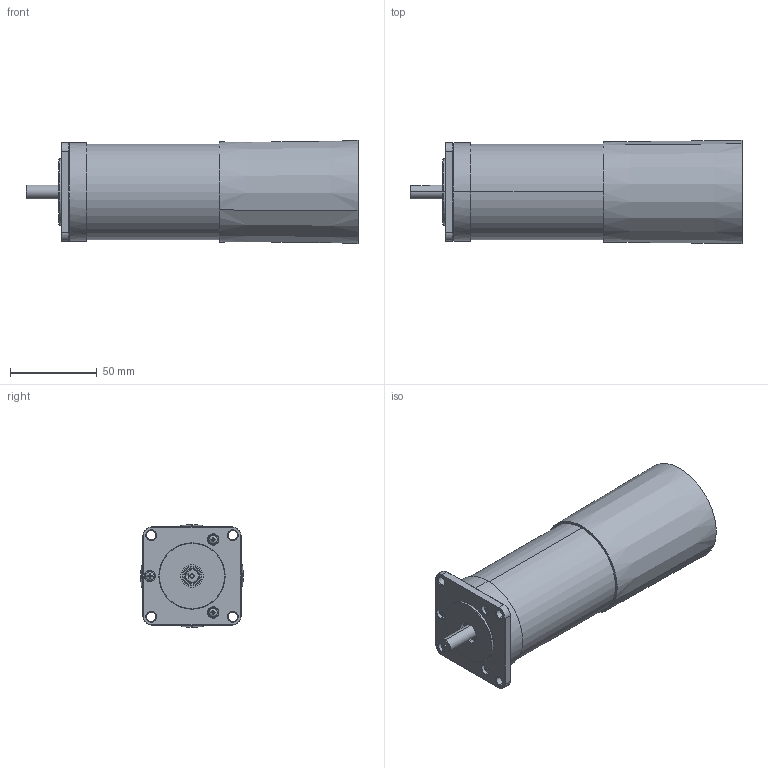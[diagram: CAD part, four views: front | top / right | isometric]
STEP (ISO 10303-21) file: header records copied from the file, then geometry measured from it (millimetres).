
FILE_DESCRIPTION((''),'2;1');
FILE_NAME('STEPPERASSY_ASM','2022-10-11T17:19:31',('Administrator'),(''),'CREO PARAMETRIC BY PTC INC, 2022014','CREO PARAMETRIC BY PTC INC, 2022014','');
FILE_SCHEMA(('AUTOMOTIVE_DESIGN { 1 0 10303 214 1 1 1 1 }'));
Length unit declared in the file: millimetre
Products named in the file (7): SF; SF42; SHAFT_C; NEWBEARING_I42; CENT_MAC_PART_NEW_1; MAC_MOTOR_ASM; STEPPERASSY_ASM
Assembly tree (6 placements, depth 3):
  STEPPERASSY_ASM
    MAC_MOTOR_ASM
      SF
      SF42
      SHAFT_C
      NEWBEARING_I42
      CENT_MAC_PART_NEW_1
Bounding box: 191.6 x 59.49 x 59.49 mm (x, y, z)
Volume: 249642.2 mm3; surface area: 79375 mm2
Topology: 15 solids, 15 shells, 685 faces, 1800 edges, 1173 vertices
Faces by surface type: plane 235, cone 169, cylinder 169, torus 50, sphere 32, bspline 30
Entity records: 34546 total; most frequent: CARTESIAN_POINT 8444, DIRECTION 3916, ORIENTED_EDGE 3492, EDGE_CURVE 1746, AXIS2_PLACEMENT_3D 1625, PRESENTATION_STYLE_ASSIGNMENT 1297, VERTEX_POINT 1129, STYLED_ITEM 1078
